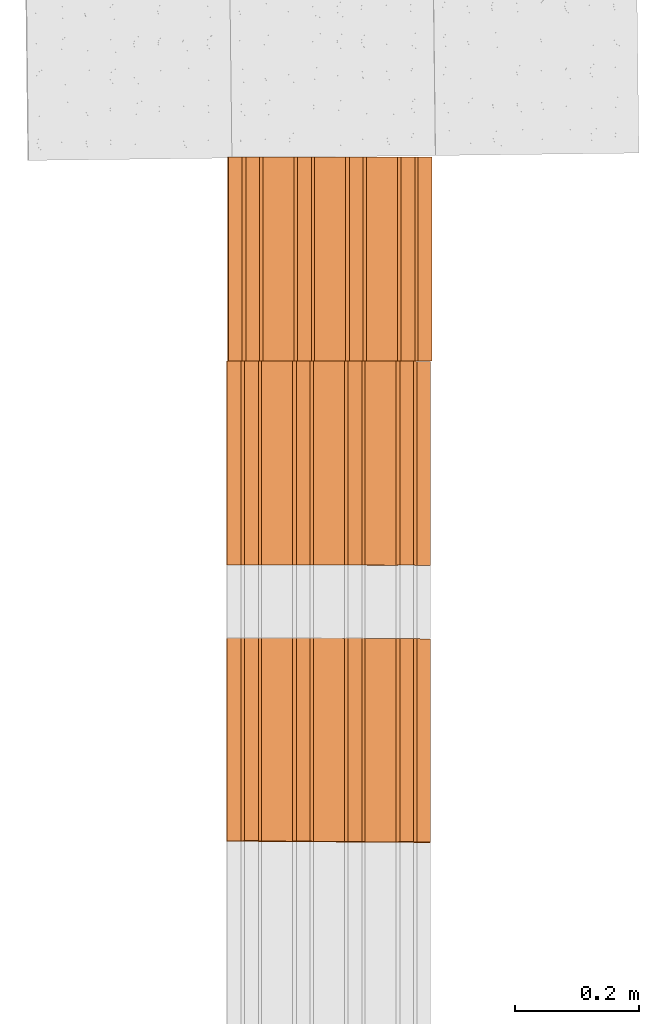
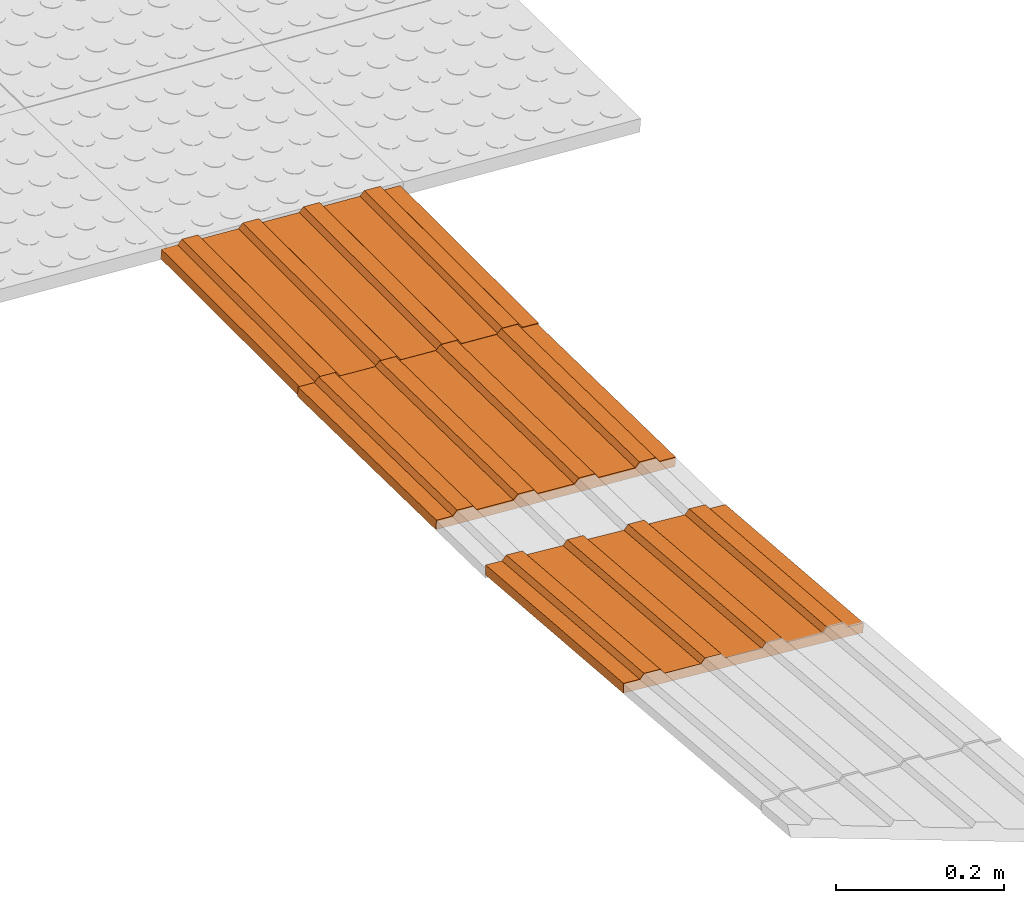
# One storey, part 236 of 237: 3 proxies.
"""IFC2X3 building model written with IfcOpenShell, lengths in millimetres."""

from ifc_helpers import new_model, entity, si_unit, converted_unit, derived_unit, money_unit, direction, frame, origin_with_axes, place, context, subcontext, project, spatial, open_shell, surface_model, type_object, element, save


model = new_model("IFC2X3")

# Units and contexts
model_context = context("Model", 3, precision=0.01, world=origin_with_axes(), true_north=direction((0.0, 1.0)))
body_context = subcontext(model_context, "Body", "Model", "MODEL_VIEW")
ifc_project = project(units=[si_unit("LENGTHUNIT", "METRE", prefix="MILLI"), si_unit("AREAUNIT", "SQUARE_METRE"), si_unit("VOLUMEUNIT", "CUBIC_METRE"), converted_unit("PLANEANGLEUNIT", "DEGREE", entity("IfcPlaneAngleMeasure", 0.0174532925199), si_unit("PLANEANGLEUNIT", "RADIAN"), dimensions=[0, 0, 0, 0, 0, 0, 0]), money_unit("USD"), converted_unit("TIMEUNIT", "Year", entity("IfcTimeMeasure", 31556926.0), si_unit("TIMEUNIT", "SECOND"), dimensions=[0, 0, 1, 0, 0, 0, 0]), si_unit("MASSUNIT", "GRAM", prefix="KILO"), si_unit("THERMODYNAMICTEMPERATUREUNIT", "DEGREE_CELSIUS"), si_unit("LUMINOUSINTENSITYUNIT", "LUMEN"), si_unit("ENERGYUNIT", "JOULE", prefix="MEGA"), derived_unit("THERMALCONDUCTANCEUNIT", [(si_unit("POWERUNIT", "WATT"), 1), (si_unit("LENGTHUNIT", "METRE"), -1), (si_unit("THERMODYNAMICTEMPERATUREUNIT", "KELVIN"), -1)]), derived_unit("SPECIFICHEATCAPACITYUNIT", [(si_unit("ENERGYUNIT", "JOULE"), 1), (si_unit("MASSUNIT", "GRAM", prefix="KILO"), -1), (si_unit("THERMODYNAMICTEMPERATUREUNIT", "KELVIN"), -1)]), derived_unit("MASSDENSITYUNIT", [(si_unit("MASSUNIT", "GRAM", prefix="KILO"), 1), (si_unit("VOLUMEUNIT", "CUBIC_METRE"), -1)])], contexts=[model_context])

# Site, building, storey
site_placement = place(None, origin_with_axes())
site = spatial("IfcSite", under=ifc_project, at=site_placement, Name="Local", CompositionType="ELEMENT")
building_placement = place(site_placement, origin_with_axes())
building = spatial("IfcBuilding", under=site, at=building_placement, Name="Construção", CompositionType="ELEMENT")
storey_placement = place(building_placement, origin_with_axes())
storey = spatial("IfcBuildingStorey", under=building, at=storey_placement, Name="Pavimento Térreo", CompositionType="ELEMENT", Elevation=0.0)

# Proxies
building_element_proxy_type = type_object("IfcBuildingElementProxyType", Name="Piso Direcional 27", PredefinedType="NOTDEFINED")
proxy_1_placement = place(storey_placement, frame((135346.086311, 36405.3026424, -8111.46781615), z_axis=(0.0, 0.0, 1.0), x_axis=(0.0, -1.0, 0.0)))
element("IfcBuildingElementProxy", 1, at=proxy_1_placement, inside=storey, type_object=building_element_proxy_type, Name="Objeto-0055", context=body_context, shape_type="SurfaceModel", body=[
    surface_model("IfcShellBasedSurfaceModel", [(-0.632888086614, -46.7964699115, 7.69796691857), (328.257449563, -46.7964699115, 34.7376747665), (327.74883458, -40.697430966, 40.9240786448), (-1.14150306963, -40.697430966, 13.8843707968)], [open_shell([[[0, 1, 2, 3]]])]),
    surface_model("IfcShellBasedSurfaceModel", [(328.663396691, -153.786179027, 29.8000442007), (330.784907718, 175.196541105, 3.99560571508), (329.695762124, 176.242662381, 17.2431402), (329.551930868, 153.938749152, 18.9925936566), (328.971400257, 148.885831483, 26.0537242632), (328.827569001, 126.581918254, 27.8031777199), (329.336183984, 120.482879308, 21.6167738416), (329.012563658, 70.2990745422, 25.5530441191), (328.432033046, 65.2461568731, 32.6141747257), (328.28820179, 42.9422436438, 34.3636281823), (328.796816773, 36.8432046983, 28.177224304), (328.473196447, -13.3406000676, 32.1134945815), (327.892665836, -18.3935177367, 39.1746251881), (327.74883458, -40.697430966, 40.9240786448), (328.257449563, -46.7964699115, 34.7376747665), (327.933829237, -96.9802746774, 38.673945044), (327.353298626, -102.033192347, 45.7350756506), (327.20946737, -124.337105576, 47.4845291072), (327.718082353, -130.436144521, 41.2981252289), (327.574251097, -152.740057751, 43.0475786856)], [open_shell([[[0, 1, 2, 3, 4, 5, 6, 7, 8, 9, 10, 11, 12, 13, 14, 15, 16, 17, 18, 19]]])]),
    surface_model("IfcShellBasedSurfaceModel", [(-0.997671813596, -18.3935177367, 12.1349173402), (327.892665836, -18.3935177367, 39.1746251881), (328.473196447, -13.3406000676, 32.1134945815), (-0.417141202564, -13.3406000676, 5.07378673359)], [open_shell([[[0, 1, 2, 3]]])]),
    surface_model("IfcShellBasedSurfaceModel", [(-1.53703902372, -102.033192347, 18.6953678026), (327.353298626, -102.033192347, 45.7350756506), (327.933829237, -96.9802746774, 38.673945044), (-0.956508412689, -96.9802746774, 11.634237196)], [open_shell([[[0, 1, 2, 3]]])]),
    surface_model("IfcShellBasedSurfaceModel", [(-0.458304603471, 65.2461568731, 5.57446687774), (328.432033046, 65.2461568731, 32.6141747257), (329.012563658, 70.2990745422, 25.5530441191), (0.122226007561, 70.2990745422, -1.48666372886)], [open_shell([[[0, 1, 2, 3]]])]),
    surface_model("IfcShellBasedSurfaceModel", [(-0.093520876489, 36.8432046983, 1.13751645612), (328.796816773, 36.8432046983, 28.177224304), (328.28820179, 42.9422436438, 34.3636281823), (-0.602135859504, 42.9422436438, 7.3239203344)], [open_shell([[[0, 1, 2, 3]]])]),
    surface_model("IfcShellBasedSurfaceModel", [(-1.17225529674, -130.436144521, 14.258417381), (327.718082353, -130.436144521, 41.2981252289), (327.20946737, -124.337105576, 47.4845291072), (-1.68087027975, -124.337105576, 20.4448212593)], [open_shell([[[0, 1, 2, 3]]])]),
    surface_model("IfcShellBasedSurfaceModel", [(0.80542447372, 176.242662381, -9.79656764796), (0.661593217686, 153.938749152, -8.04711419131), (329.551930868, 153.938749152, 18.9925936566), (329.695762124, 176.242662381, 17.2431402)], [open_shell([[[0, 1, 2, 3]]])]),
    surface_model("IfcShellBasedSurfaceModel", [(0.445846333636, 120.482879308, -5.42293400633), (329.336183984, 120.482879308, 21.6167738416), (328.827569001, 126.581918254, 27.8031777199), (-0.062768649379, 126.581918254, 0.763469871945)], [open_shell([[[0, 1, 2, 3]]])]),
    surface_model("IfcShellBasedSurfaceModel", [(0.0810626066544, 148.885831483, -0.985983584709), (328.971400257, 148.885831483, 26.0537242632), (329.551930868, 153.938749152, 18.9925936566), (0.661593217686, 153.938749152, -8.04711419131)], [open_shell([[[0, 1, 2, 3]]])]),
    surface_model("IfcShellBasedSurfaceModel", [(-0.093520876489, 36.8432046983, 1.13751645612), (-0.417141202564, -13.3406000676, 5.07378673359), (328.473196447, -13.3406000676, 32.1134945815), (328.796816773, 36.8432046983, 28.177224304)], [open_shell([[[0, 1, 2, 3]]])]),
    surface_model("IfcShellBasedSurfaceModel", [(0.445846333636, 120.482879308, -5.42293400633), (0.122226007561, 70.2990745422, -1.48666372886), (329.012563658, 70.2990745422, 25.5530441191), (329.336183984, 120.482879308, 21.6167738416)], [open_shell([[[0, 1, 2, 3]]])]),
    surface_model("IfcShellBasedSurfaceModel", [(0.0810626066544, 148.885831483, -0.985983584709), (-0.062768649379, 126.581918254, 0.763469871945), (328.827569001, 126.581918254, 27.8031777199), (328.971400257, 148.885831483, 26.0537242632)], [open_shell([[[0, 1, 2, 3]]])]),
    surface_model("IfcShellBasedSurfaceModel", [(0.445846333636, 120.482879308, -5.42293400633), (-0.062768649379, 126.581918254, 0.763469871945), (0.0810626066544, 148.885831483, -0.985983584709), (0.661593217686, 153.938749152, -8.04711419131), (0.80542447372, 176.242662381, -9.79656764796), (1.89457006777, 175.196541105, -23.0441021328), (-0.226940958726, -153.786179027, 2.76033635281), (-1.31608655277, -152.740057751, 16.0078708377), (-1.17225529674, -130.436144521, 14.258417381), (-1.68087027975, -124.337105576, 20.4448212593), (-1.53703902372, -102.033192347, 18.6953678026), (-0.956508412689, -96.9802746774, 11.634237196), (-0.632888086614, -46.7964699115, 7.69796691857), (-1.14150306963, -40.697430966, 13.8843707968), (-0.997671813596, -18.3935177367, 12.1349173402), (-0.417141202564, -13.3406000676, 5.07378673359), (-0.093520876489, 36.8432046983, 1.13751645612), (-0.602135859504, 42.9422436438, 7.3239203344), (-0.458304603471, 65.2461568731, 5.57446687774), (0.122226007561, 70.2990745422, -1.48666372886)], [open_shell([[[0, 1, 2, 3, 4, 5, 6, 7, 8, 9, 10, 11, 12, 13, 14, 15, 16, 17, 18, 19]]])]),
    surface_model("IfcShellBasedSurfaceModel", [(327.74883458, -40.697430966, 40.9240786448), (327.892665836, -18.3935177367, 39.1746251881), (-0.997671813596, -18.3935177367, 12.1349173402), (-1.14150306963, -40.697430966, 13.8843707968)], [open_shell([[[0, 1, 2, 3]]])]),
    surface_model("IfcShellBasedSurfaceModel", [(-0.632888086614, -46.7964699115, 7.69796691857), (-0.956508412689, -96.9802746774, 11.634237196), (327.933829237, -96.9802746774, 38.673945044), (328.257449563, -46.7964699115, 34.7376747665)], [open_shell([[[0, 1, 2, 3]]])]),
    surface_model("IfcShellBasedSurfaceModel", [(328.28820179, 42.9422436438, 34.3636281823), (328.432033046, 65.2461568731, 32.6141747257), (-0.458304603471, 65.2461568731, 5.57446687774), (-0.602135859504, 42.9422436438, 7.3239203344)], [open_shell([[[0, 1, 2, 3]]])]),
    surface_model("IfcShellBasedSurfaceModel", [(327.20946737, -124.337105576, 47.4845291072), (327.353298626, -102.033192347, 45.7350756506), (-1.53703902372, -102.033192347, 18.6953678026), (-1.68087027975, -124.337105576, 20.4448212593)], [open_shell([[[0, 1, 2, 3]]])]),
    surface_model("IfcShellBasedSurfaceModel", [(330.784907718, 175.196541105, 3.99560571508), (1.89457006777, 175.196541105, -23.0441021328), (0.80542447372, 176.242662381, -9.79656764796), (329.695762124, 176.242662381, 17.2431402)], [open_shell([[[0, 1, 2, 3]]])]),
    surface_model("IfcShellBasedSurfaceModel", [(328.663396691, -153.786179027, 29.8000442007), (-0.226940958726, -153.786179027, 2.76033635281), (1.89457006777, 175.196541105, -23.0441021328), (330.784907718, 175.196541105, 3.99560571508)], [open_shell([[[0, 1, 2, 3]]])]),
    surface_model("IfcShellBasedSurfaceModel", [(327.574251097, -152.740057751, 43.0475786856), (327.718082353, -130.436144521, 41.2981252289), (-1.17225529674, -130.436144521, 14.258417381), (-1.31608655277, -152.740057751, 16.0078708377)], [open_shell([[[0, 1, 2, 3]]])]),
    surface_model("IfcShellBasedSurfaceModel", [(-0.226940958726, -153.786179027, 2.76033635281), (328.663396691, -153.786179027, 29.8000442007), (327.574251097, -152.740057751, 43.0475786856), (-1.31608655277, -152.740057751, 16.0078708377)], [open_shell([[[0, 1, 2, 3]]])]),
])
proxy_2_placement = place(storey_placement, frame((135348.0994, 37183.4731989, -8122.10752397), z_axis=(0.0, 0.0, 1.0), x_axis=(0.0, -1.0, 0.0)))
element("IfcBuildingElementProxy", 2, at=proxy_2_placement, inside=storey, type_object=building_element_proxy_type, Name="Objeto-0055", context=body_context, shape_type="SurfaceModel", body=[
    surface_model("IfcShellBasedSurfaceModel", [(0.0, -46.8747874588, 7.23347350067), (330.0, -46.8747874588, 7.23347350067), (330.0, -40.8410841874, 13.5042775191), (0.0, -40.8410841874, 13.5042775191)], [open_shell([[[0, 1, 2, 3]]])]),
    surface_model("IfcShellBasedSurfaceModel", [(330.0, -153.806750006, 1.15908208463), (330.0, 175.42906201, -21.2859638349), (330.0, 176.335932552, -7.98350678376), (330.0, 154.014860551, -6.46180875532), (330.0, 148.888027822, 0.569844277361), (330.0, 126.566955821, 2.0915423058), (330.0, 120.533252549, -4.17926171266), (330.0, 70.3108405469, -0.75544114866), (330.0, 65.1840078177, 6.27621188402), (330.0, 42.8629358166, 7.79790991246), (330.0, 36.8292325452, 1.527105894), (330.0, -13.3931794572, 4.950926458), (330.0, -18.5200121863, 11.9825794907), (330.0, -40.8410841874, 13.5042775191), (330.0, -46.8747874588, 7.23347350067), (330.0, -97.0971994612, 10.6572940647), (330.0, -102.22403219, 17.6889470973), (330.0, -124.545104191, 19.2106451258), (330.0, -130.578807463, 12.9398411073), (330.0, -152.899879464, 14.4615391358)], [open_shell([[[0, 1, 2, 3, 4, 5, 6, 7, 8, 9, 10, 11, 12, 13, 14, 15, 16, 17, 18, 19]]])]),
    surface_model("IfcShellBasedSurfaceModel", [(0.0, -18.5200121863, 11.9825794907), (330.0, -18.5200121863, 11.9825794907), (330.0, -13.3931794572, 4.950926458), (0.0, -13.3931794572, 4.950926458)], [open_shell([[[0, 1, 2, 3]]])]),
    surface_model("IfcShellBasedSurfaceModel", [(0.0, -102.22403219, 17.6889470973), (330.0, -102.22403219, 17.6889470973), (330.0, -97.0971994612, 10.6572940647), (0.0, -97.0971994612, 10.6572940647)], [open_shell([[[0, 1, 2, 3]]])]),
    surface_model("IfcShellBasedSurfaceModel", [(0.0, 65.1840078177, 6.27621188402), (330.0, 65.1840078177, 6.27621188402), (330.0, 70.3108405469, -0.75544114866), (0.0, 70.3108405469, -0.75544114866)], [open_shell([[[0, 1, 2, 3]]])]),
    surface_model("IfcShellBasedSurfaceModel", [(0.0, 36.8292325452, 1.527105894), (330.0, 36.8292325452, 1.527105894), (330.0, 42.8629358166, 7.79790991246), (0.0, 42.8629358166, 7.79790991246)], [open_shell([[[0, 1, 2, 3]]])]),
    surface_model("IfcShellBasedSurfaceModel", [(0.0, -130.578807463, 12.9398411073), (330.0, -130.578807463, 12.9398411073), (330.0, -124.545104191, 19.2106451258), (0.0, -124.545104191, 19.2106451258)], [open_shell([[[0, 1, 2, 3]]])]),
    surface_model("IfcShellBasedSurfaceModel", [(0.0, 176.335932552, -7.98350678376), (0.0, 154.014860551, -6.46180875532), (330.0, 154.014860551, -6.46180875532), (330.0, 176.335932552, -7.98350678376)], [open_shell([[[0, 1, 2, 3]]])]),
    surface_model("IfcShellBasedSurfaceModel", [(0.0, 120.533252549, -4.17926171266), (330.0, 120.533252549, -4.17926171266), (330.0, 126.566955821, 2.0915423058), (0.0, 126.566955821, 2.0915423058)], [open_shell([[[0, 1, 2, 3]]])]),
    surface_model("IfcShellBasedSurfaceModel", [(0.0, 148.888027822, 0.569844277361), (330.0, 148.888027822, 0.569844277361), (330.0, 154.014860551, -6.46180875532), (0.0, 154.014860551, -6.46180875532)], [open_shell([[[0, 1, 2, 3]]])]),
    surface_model("IfcShellBasedSurfaceModel", [(0.0, 36.8292325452, 1.527105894), (0.0, -13.3931794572, 4.950926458), (330.0, -13.3931794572, 4.950926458), (330.0, 36.8292325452, 1.527105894)], [open_shell([[[0, 1, 2, 3]]])]),
    surface_model("IfcShellBasedSurfaceModel", [(0.0, 120.533252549, -4.17926171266), (0.0, 70.3108405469, -0.75544114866), (330.0, 70.3108405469, -0.75544114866), (330.0, 120.533252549, -4.17926171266)], [open_shell([[[0, 1, 2, 3]]])]),
    surface_model("IfcShellBasedSurfaceModel", [(0.0, 148.888027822, 0.569844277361), (0.0, 126.566955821, 2.0915423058), (330.0, 126.566955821, 2.0915423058), (330.0, 148.888027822, 0.569844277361)], [open_shell([[[0, 1, 2, 3]]])]),
    surface_model("IfcShellBasedSurfaceModel", [(0.0, 120.533252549, -4.17926171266), (0.0, 126.566955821, 2.0915423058), (0.0, 148.888027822, 0.569844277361), (0.0, 154.014860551, -6.46180875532), (0.0, 176.335932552, -7.98350678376), (0.0, 175.42906201, -21.2859638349), (0.0, -153.806750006, 1.15908208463), (0.0, -152.899879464, 14.4615391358), (0.0, -130.578807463, 12.9398411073), (0.0, -124.545104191, 19.2106451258), (0.0, -102.22403219, 17.6889470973), (0.0, -97.0971994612, 10.6572940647), (0.0, -46.8747874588, 7.23347350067), (0.0, -40.8410841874, 13.5042775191), (0.0, -18.5200121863, 11.9825794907), (0.0, -13.3931794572, 4.950926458), (0.0, 36.8292325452, 1.527105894), (0.0, 42.8629358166, 7.79790991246), (0.0, 65.1840078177, 6.27621188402), (0.0, 70.3108405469, -0.75544114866)], [open_shell([[[0, 1, 2, 3, 4, 5, 6, 7, 8, 9, 10, 11, 12, 13, 14, 15, 16, 17, 18, 19]]])]),
    surface_model("IfcShellBasedSurfaceModel", [(330.0, -40.8410841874, 13.5042775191), (330.0, -18.5200121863, 11.9825794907), (0.0, -18.5200121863, 11.9825794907), (0.0, -40.8410841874, 13.5042775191)], [open_shell([[[0, 1, 2, 3]]])]),
    surface_model("IfcShellBasedSurfaceModel", [(0.0, -46.8747874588, 7.23347350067), (0.0, -97.0971994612, 10.6572940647), (330.0, -97.0971994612, 10.6572940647), (330.0, -46.8747874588, 7.23347350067)], [open_shell([[[0, 1, 2, 3]]])]),
    surface_model("IfcShellBasedSurfaceModel", [(330.0, 42.8629358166, 7.79790991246), (330.0, 65.1840078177, 6.27621188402), (0.0, 65.1840078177, 6.27621188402), (0.0, 42.8629358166, 7.79790991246)], [open_shell([[[0, 1, 2, 3]]])]),
    surface_model("IfcShellBasedSurfaceModel", [(330.0, -124.545104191, 19.2106451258), (330.0, -102.22403219, 17.6889470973), (0.0, -102.22403219, 17.6889470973), (0.0, -124.545104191, 19.2106451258)], [open_shell([[[0, 1, 2, 3]]])]),
    surface_model("IfcShellBasedSurfaceModel", [(330.0, 175.42906201, -21.2859638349), (0.0, 175.42906201, -21.2859638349), (0.0, 176.335932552, -7.98350678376), (330.0, 176.335932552, -7.98350678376)], [open_shell([[[0, 1, 2, 3]]])]),
    surface_model("IfcShellBasedSurfaceModel", [(330.0, -153.806750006, 1.15908208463), (0.0, -153.806750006, 1.15908208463), (0.0, 175.42906201, -21.2859638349), (330.0, 175.42906201, -21.2859638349)], [open_shell([[[0, 1, 2, 3]]])]),
    surface_model("IfcShellBasedSurfaceModel", [(330.0, -152.899879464, 14.4615391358), (330.0, -130.578807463, 12.9398411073), (0.0, -130.578807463, 12.9398411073), (0.0, -152.899879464, 14.4615391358)], [open_shell([[[0, 1, 2, 3]]])]),
    surface_model("IfcShellBasedSurfaceModel", [(0.0, -153.806750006, 1.15908208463), (330.0, -153.806750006, 1.15908208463), (330.0, -152.899879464, 14.4615391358), (0.0, -152.899879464, 14.4615391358)], [open_shell([[[0, 1, 2, 3]]])]),
])
proxy_3_placement = place(storey_placement, frame((135346.086311, 36853.4731989, -8122.10752397), z_axis=(0.0, 0.0, 1.0), x_axis=(0.0, -1.0, 0.0)))
element("IfcBuildingElementProxy", 3, at=proxy_3_placement, inside=storey, type_object=building_element_proxy_type, Name="Objeto-0055", context=body_context, shape_type="SurfaceModel", body=[
    surface_model("IfcShellBasedSurfaceModel", [(-0.132775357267, -46.8620912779, 7.31406931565), (329.812862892, -46.8620912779, 13.3037103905), (329.69923643, -40.8174525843, 19.5629427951), (-0.24640181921, -40.8174525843, 13.5733017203)], [open_shell([[[0, 1, 2, 3]]])]),
    surface_model("IfcShellBasedSurfaceModel", [(329.919728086, -153.804492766, 7.41692951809), (330.337544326, 175.39164382, -15.5989147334), (330.09612814, 176.321730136, -2.30025181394), (330.067801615, 154.003347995, -0.739855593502), (329.940011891, 148.888795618, 6.29957492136), (329.911685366, 126.570413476, 7.8599711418), (330.025311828, 120.525774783, 1.60073873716), (329.961577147, 70.3094149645, 5.11163023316), (329.833787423, 65.1948625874, 12.151060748), (329.805460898, 42.876480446, 13.7114569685), (329.91908736, 36.8318417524, 7.45222456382), (329.855352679, -13.3845180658, 10.9631160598), (329.727562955, -18.4990704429, 18.0025465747), (329.69923643, -40.8174525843, 19.5629427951), (329.812862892, -46.8620912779, 13.3037103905), (329.749128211, -97.0784510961, 16.8146018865), (329.621338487, -102.193003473, 23.8540324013), (329.593011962, -124.511385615, 25.4144286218), (329.706638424, -130.556024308, 19.1551962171), (329.678311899, -152.87440645, 20.7155924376)], [open_shell([[[0, 1, 2, 3, 4, 5, 6, 7, 8, 9, 10, 11, 12, 13, 14, 15, 16, 17, 18, 19]]])]),
    surface_model("IfcShellBasedSurfaceModel", [(-0.218075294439, -18.4990704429, 12.0129054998), (329.727562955, -18.4990704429, 18.0025465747), (329.855352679, -13.3845180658, 10.9631160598), (-0.0902855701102, -13.3845180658, 4.97347498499)], [open_shell([[[0, 1, 2, 3]]])]),
    surface_model("IfcShellBasedSurfaceModel", [(-0.32429976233, -102.193003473, 17.8643913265), (329.621338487, -102.193003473, 23.8540324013), (329.749128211, -97.0784510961, 16.8146018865), (-0.196510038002, -97.0784510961, 10.8249608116)], [open_shell([[[0, 1, 2, 3]]])]),
    surface_model("IfcShellBasedSurfaceModel", [(-0.111850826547, 65.1948625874, 6.16141967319), (329.833787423, 65.1948625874, 12.151060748), (329.961577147, 70.3094149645, 5.11163023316), (0.0159388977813, 70.3094149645, -0.878010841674)], [open_shell([[[0, 1, 2, 3]]])]),
    surface_model("IfcShellBasedSurfaceModel", [(-0.0265508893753, 36.8318417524, 1.46258348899), (329.91908736, 36.8318417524, 7.45222456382), (329.805460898, 42.876480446, 13.7114569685), (-0.140177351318, 42.876480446, 7.72181589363)], [open_shell([[[0, 1, 2, 3]]])]),
    surface_model("IfcShellBasedSurfaceModel", [(-0.238999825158, -130.556024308, 13.1655551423), (329.706638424, -130.556024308, 19.1551962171), (329.593011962, -124.511385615, 25.4144286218), (-0.352626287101, -124.511385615, 19.424787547)], [open_shell([[[0, 1, 2, 3]]])]),
    surface_model("IfcShellBasedSurfaceModel", [(0.150489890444, 176.321730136, -8.28989288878), (0.122163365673, 154.003347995, -6.72949666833), (330.067801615, 154.003347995, -0.739855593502), (330.09612814, 176.321730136, -2.30025181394)], [open_shell([[[0, 1, 2, 3]]])]),
    surface_model("IfcShellBasedSurfaceModel", [(0.0796735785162, 120.525774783, -4.38890233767), (330.025311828, 120.525774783, 1.60073873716), (329.911685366, 126.570413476, 7.8599711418), (-0.0339528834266, 126.570413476, 1.87033006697)], [open_shell([[[0, 1, 2, 3]]])]),
    surface_model("IfcShellBasedSurfaceModel", [(-0.00562635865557, 148.888795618, 0.309933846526), (329.940011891, 148.888795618, 6.29957492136), (330.067801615, 154.003347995, -0.739855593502), (0.122163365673, 154.003347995, -6.72949666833)], [open_shell([[[0, 1, 2, 3]]])]),
    surface_model("IfcShellBasedSurfaceModel", [(-0.0265508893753, 36.8318417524, 1.46258348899), (-0.0902855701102, -13.3845180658, 4.97347498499), (329.855352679, -13.3845180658, 10.9631160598), (329.91908736, 36.8318417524, 7.45222456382)], [open_shell([[[0, 1, 2, 3]]])]),
    surface_model("IfcShellBasedSurfaceModel", [(0.0796735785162, 120.525774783, -4.38890233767), (0.0159388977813, 70.3094149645, -0.878010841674), (329.961577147, 70.3094149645, 5.11163023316), (330.025311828, 120.525774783, 1.60073873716)], [open_shell([[[0, 1, 2, 3]]])]),
    surface_model("IfcShellBasedSurfaceModel", [(-0.00562635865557, 148.888795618, 0.309933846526), (-0.0339528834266, 126.570413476, 1.87033006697), (329.911685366, 126.570413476, 7.8599711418), (329.940011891, 148.888795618, 6.29957492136)], [open_shell([[[0, 1, 2, 3]]])]),
    surface_model("IfcShellBasedSurfaceModel", [(0.0796735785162, 120.525774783, -4.38890233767), (-0.0339528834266, 126.570413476, 1.87033006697), (-0.00562635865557, 148.888795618, 0.309933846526), (0.122163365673, 154.003347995, -6.72949666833), (0.150489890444, 176.321730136, -8.28989288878), (0.391906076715, 175.39164382, -21.5885558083), (-0.0259101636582, -153.804492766, 1.42728844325), (-0.267326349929, -152.87440645, 14.7259513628), (-0.238999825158, -130.556024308, 13.1655551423), (-0.352626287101, -124.511385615, 19.424787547), (-0.32429976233, -102.193003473, 17.8643913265), (-0.196510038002, -97.0784510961, 10.8249608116), (-0.132775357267, -46.8620912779, 7.31406931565), (-0.24640181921, -40.8174525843, 13.5733017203), (-0.218075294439, -18.4990704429, 12.0129054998), (-0.0902855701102, -13.3845180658, 4.97347498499), (-0.0265508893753, 36.8318417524, 1.46258348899), (-0.140177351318, 42.876480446, 7.72181589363), (-0.111850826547, 65.1948625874, 6.16141967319), (0.0159388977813, 70.3094149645, -0.878010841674)], [open_shell([[[0, 1, 2, 3, 4, 5, 6, 7, 8, 9, 10, 11, 12, 13, 14, 15, 16, 17, 18, 19]]])]),
    surface_model("IfcShellBasedSurfaceModel", [(329.69923643, -40.8174525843, 19.5629427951), (329.727562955, -18.4990704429, 18.0025465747), (-0.218075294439, -18.4990704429, 12.0129054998), (-0.24640181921, -40.8174525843, 13.5733017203)], [open_shell([[[0, 1, 2, 3]]])]),
    surface_model("IfcShellBasedSurfaceModel", [(-0.132775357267, -46.8620912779, 7.31406931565), (-0.196510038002, -97.0784510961, 10.8249608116), (329.749128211, -97.0784510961, 16.8146018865), (329.812862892, -46.8620912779, 13.3037103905)], [open_shell([[[0, 1, 2, 3]]])]),
    surface_model("IfcShellBasedSurfaceModel", [(329.805460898, 42.876480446, 13.7114569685), (329.833787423, 65.1948625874, 12.151060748), (-0.111850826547, 65.1948625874, 6.16141967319), (-0.140177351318, 42.876480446, 7.72181589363)], [open_shell([[[0, 1, 2, 3]]])]),
    surface_model("IfcShellBasedSurfaceModel", [(329.593011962, -124.511385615, 25.4144286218), (329.621338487, -102.193003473, 23.8540324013), (-0.32429976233, -102.193003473, 17.8643913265), (-0.352626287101, -124.511385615, 19.424787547)], [open_shell([[[0, 1, 2, 3]]])]),
    surface_model("IfcShellBasedSurfaceModel", [(330.337544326, 175.39164382, -15.5989147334), (0.391906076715, 175.39164382, -21.5885558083), (0.150489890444, 176.321730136, -8.28989288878), (330.09612814, 176.321730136, -2.30025181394)], [open_shell([[[0, 1, 2, 3]]])]),
    surface_model("IfcShellBasedSurfaceModel", [(329.919728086, -153.804492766, 7.41692951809), (-0.0259101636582, -153.804492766, 1.42728844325), (0.391906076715, 175.39164382, -21.5885558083), (330.337544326, 175.39164382, -15.5989147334)], [open_shell([[[0, 1, 2, 3]]])]),
    surface_model("IfcShellBasedSurfaceModel", [(329.678311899, -152.87440645, 20.7155924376), (329.706638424, -130.556024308, 19.1551962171), (-0.238999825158, -130.556024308, 13.1655551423), (-0.267326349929, -152.87440645, 14.7259513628)], [open_shell([[[0, 1, 2, 3]]])]),
    surface_model("IfcShellBasedSurfaceModel", [(-0.0259101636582, -153.804492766, 1.42728844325), (329.919728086, -153.804492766, 7.41692951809), (329.678311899, -152.87440645, 20.7155924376), (-0.267326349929, -152.87440645, 14.7259513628)], [open_shell([[[0, 1, 2, 3]]])]),
])

save(model, "model.ifc")
